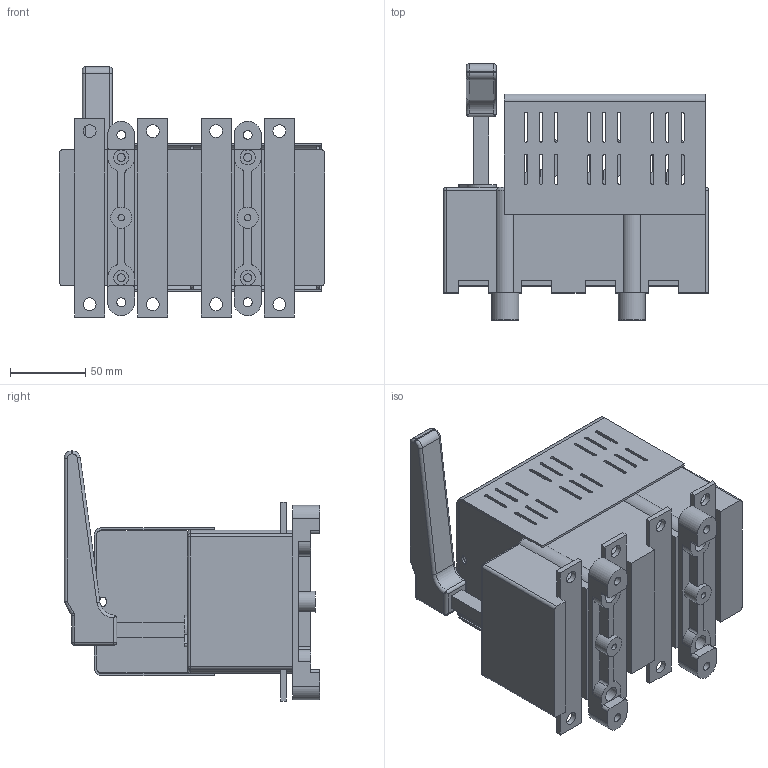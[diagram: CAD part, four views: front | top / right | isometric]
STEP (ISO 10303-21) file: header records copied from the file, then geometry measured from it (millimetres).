
FILE_DESCRIPTION(/* description */ (''),/* implementation_level */ '2;1');
FILE_NAME(/* name */ 'RAB 00 P3 N-R.stp',/* time_stamp */ '2021-08-19T11:02:35+02:00',/* author */ (''),/* organization */ (''),/* preprocessor_version */ 'ST-DEVELOPER v18.1',/* originating_system */ 'SIEMENS PLM Software NX 1965',/* authorisation */ '');
FILE_SCHEMA (('AUTOMOTIVE_DESIGN { 1 0 10303 214 3 1 1 1 }'));
Length unit declared in the file: millimetre
Products named in the file (1): RAB 00 P3 N-R_stp
Bounding box: 176 x 170 x 166.1 mm (x, y, z)
Volume: 1284960.7 mm3; surface area: 229018.3 mm2
Topology: 1 solids, 1 shells, 880 faces, 2459 edges, 1590 vertices
Faces by surface type: plane 552, cylinder 306, torus 12, sphere 10
Full cylindrical faces by diameter (mm): 2.7 x4, 4.3 x2, 5 x6, 5.3 x4, 5.8 x4, 8.5 x8, 10 x8, 14 x2
Entity records: 27961 total; most frequent: CARTESIAN_POINT 4930, ORIENTED_EDGE 4762, DIRECTION 4751, EDGE_CURVE 2381, LINE 1725, VECTOR 1725, VERTEX_POINT 1560, AXIS2_PLACEMENT_3D 1513
